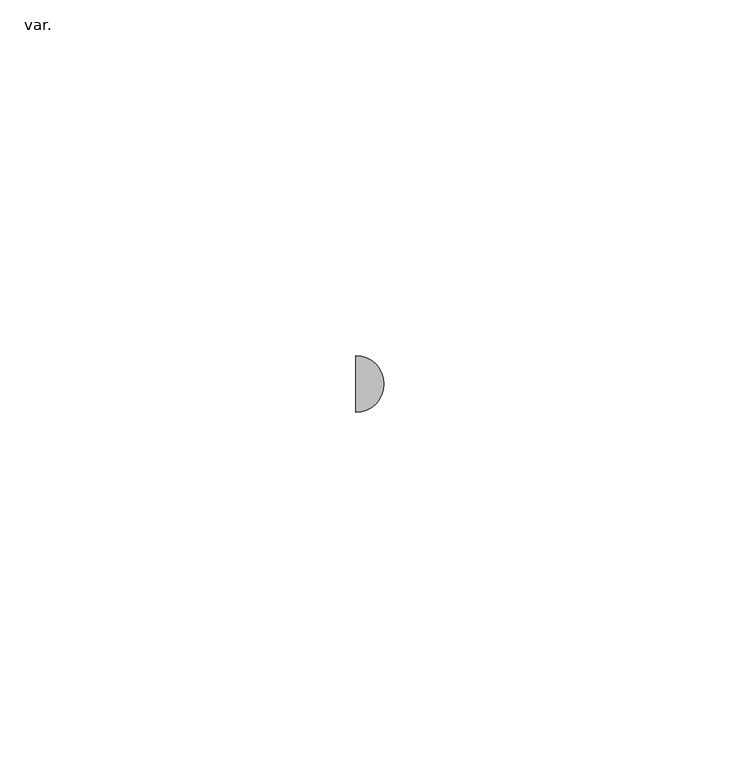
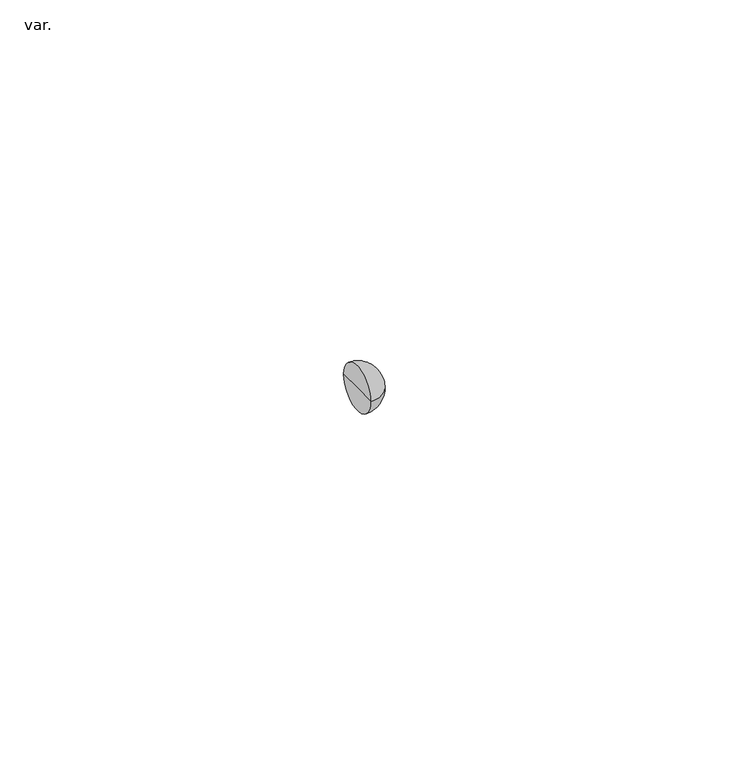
"""IFC4 building model written with IfcOpenShell, lengths in millimetres: pipe fitting geometry, NLRS_52_PIF_UN_Vacurain Flex multi bocht_Dyka : var.."""

from ifc_helpers import new_model, si_unit, point, frame, origin, place, context, project, spatial, circle_curve, ellipse_curve, trimmed, source, transform, mapped, element, save
from ifc_brep_helpers import plane_surface, revolved_surface, advanced_brep


def var_08b65c3c(model_context):
    return source(origin(), model_context, "Body", "AdvancedBrep", [
        advanced_brep(
        [(-122.0, -4.0, 0.0), (-122.0, 4.0, 0.0), (-118.0, 0.0, 0.0), (-122.0, 0.0, 0.0)],
        [
            (0, 1, circle_curve(frame((-122.0, 0.0, 0.0), z_axis=(1.0, 0.0, 0.0), x_axis=(0.0, 1.0, 0.0)), 4.0)),
            (1, 2, circle_curve(frame((-122.0, 0.0, 0.0), z_axis=(0.0, 0.0, -1.0), x_axis=(1.0, 0.0, 0.0)), 4.0)),
            (2, 0, circle_curve(frame((-122.0, 0.0, 0.0), z_axis=(0.0, 0.0, -1.0), x_axis=(1.0, 0.0, 0.0)), 4.0)),
            (1, 0, circle_curve(frame((-122.0, 0.0, 0.0), z_axis=(1.0, 0.0, 0.0), x_axis=(0.0, 1.0, 0.0)), 4.0)),
            (3, 1),
            (0, 3),
        ],
        [
            revolved_surface(trimmed(ellipse_curve(frame((-122.0, 0.0, 0.0), z_axis=(0.0, 0.0, 1.0), x_axis=(1.0, 0.0, 0.0)), 4.0, 4.0), [point((-118.0, 0.0, 0.0))], [point((-122.0, 4.0, 0.0))], True, "CARTESIAN"), (-120.0, 0.0, 0.0), (-1.0, 0.0, 0.0)),
            plane_surface(frame((-122.0, 0.0, 0.0), z_axis=(-1.0, 0.0, 0.0), x_axis=(0.0, 1.0, 0.0))),
        ],
        [
            (0, [[1, 2, 3]]),
            (0, [[4, -3, -2]]),
            (1, [[5, -1, 6]]),
            (1, [[-6, -4, -5]]),
        ],
    ),
    ])


if __name__ == "__main__":
    model = new_model("IFC4")
    model_context = context("Model", 3, world=origin())
    ifc_project = project(units=[si_unit("LENGTHUNIT", "METRE", prefix="MILLI")], contexts=[model_context])
    site = spatial("IfcSite", under=ifc_project)
    building = spatial("IfcBuilding", under=site)
    placement = place(None, origin())
    var_shape = var_08b65c3c(model_context)
    element("IfcPipeFitting", 1, ObjectType="NLRS_52_PIF_UN_Vacurain Flex multi bocht_Dyka : var.", at=placement, inside=building, context=model_context, shape_type="MappedRepresentation", body=[
        mapped(var_shape, transform((0.0, 0.0, 0.0), x_axis=(1.0, 0.0, 0.0), y_axis=(0.0, 1.0, 0.0), z_axis=(0.0, 0.0, 1.0))),
    ])
    save(model, "model.ifc")
